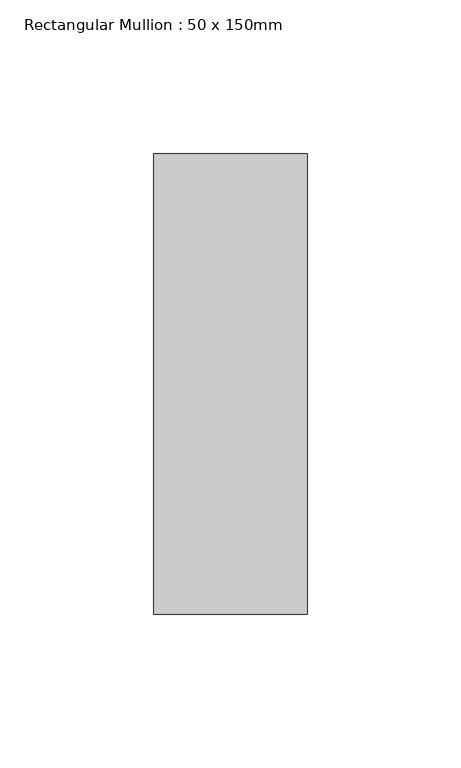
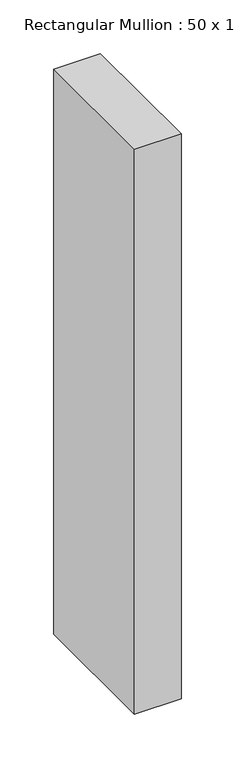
"""IFC4 building model written with IfcOpenShell, lengths in millimetres: member geometry, Rectangular Mullion : 50 x 150mm."""

from ifc_helpers import new_model, si_unit, frame, origin, place, context, project, spatial, polyline, outline, extrude, source, transform, mapped, element, save


def rectangular_mullion_50_x_150mm_dbed7bf6(model_context):
    return source(origin(), model_context, "Body", "SweptSolid", [
        extrude(outline(polyline([(0.0, 75.0), (0.0, -75.0), (-50.0, -75.0), (-50.0, 75.0), (0.0, 75.0)])), frame((0.0, 0.0, -641.1049505), z_axis=(0.0, 0.0, 1.0), x_axis=(1.0, 0.0, 0.0)), (0.0, 0.0, 1.0), 641.1049505),
    ])


if __name__ == "__main__":
    model = new_model("IFC4")
    model_context = context("Model", 3, world=origin())
    ifc_project = project(units=[si_unit("LENGTHUNIT", "METRE", prefix="MILLI")], contexts=[model_context])
    site = spatial("IfcSite", under=ifc_project)
    building = spatial("IfcBuilding", under=site)
    placement = place(None, origin())
    rectangular_mullion_50_x_150mm_shape = rectangular_mullion_50_x_150mm_dbed7bf6(model_context)
    element("IfcMember", 1, ObjectType="Rectangular Mullion : 50 x 150mm", at=placement, inside=building, context=model_context, shape_type="MappedRepresentation", body=[
        mapped(rectangular_mullion_50_x_150mm_shape, transform((0.0, 0.0, 0.0), x_axis=(1.0, 0.0, 0.0), y_axis=(0.0, 1.0, 0.0), z_axis=(0.0, 0.0, 1.0))),
    ])
    save(model, "model.ifc")
